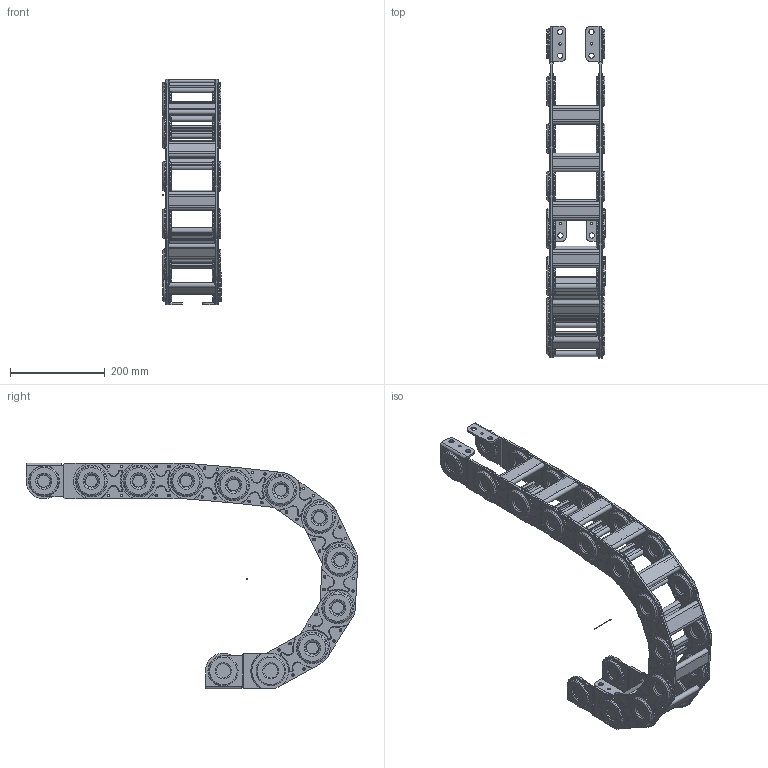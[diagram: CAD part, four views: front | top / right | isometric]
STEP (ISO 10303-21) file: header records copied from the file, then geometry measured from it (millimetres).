
FILE_DESCRIPTION((''),'2;1');
FILE_NAME('C:\Uebbing\TRACE PARTS\SLE\SLE 321\SLE 321 vereinfacht.stp','2013-05-27T07:52:16',('Uebbing'),(''),'Autodesk Inventor 10','Autodesk Inventor 10','');
FILE_SCHEMA(('AUTOMOTIVE_DESIGN { 1 0 10303 214 1 1 1 1 }'));
Length unit declared in the file: millimetre
Products named in the file (5): SLE 321 vereinfacht; Achse; SLE 320 Glied vereinfacht; SLE 320 Anschluss N einfach vereinfacht; SLE 320 Anschluss N doppelt vereinfacht
Assembly tree (12 placements, depth 2):
  SLE 321 vereinfacht
    Achse
    SLE 320 Glied vereinfacht  x9
    SLE 320 Anschluss N einfach vereinfacht
    SLE 320 Anschluss N doppelt vereinfacht
Bounding box: 123.2 x 699.15 x 475 mm (x, y, z)
Volume: 2183568.3 mm3; surface area: 1103898.6 mm2
Topology: 16 solids, 16 shells, 1963 faces, 4744 edges, 2995 vertices
Faces by surface type: cylinder 765, plane 674, torus 424, bspline 100
Full cylindrical faces by diameter (mm): 1 x1, 4.2 x36, 5.2 x4, 5.3 x72, 11 x8, 20.05 x2, 20.06 x4, 20.1 x18, 20.2 x4, 30 x8, 62 x8
Entity records: 14691 total; most frequent: CARTESIAN_POINT 3656, DIRECTION 2400, ORIENTED_EDGE 2024, EDGE_CURVE 1012, AXIS2_PLACEMENT_3D 952, VERTEX_POINT 704, EDGE_LOOP 676, VECTOR 496
